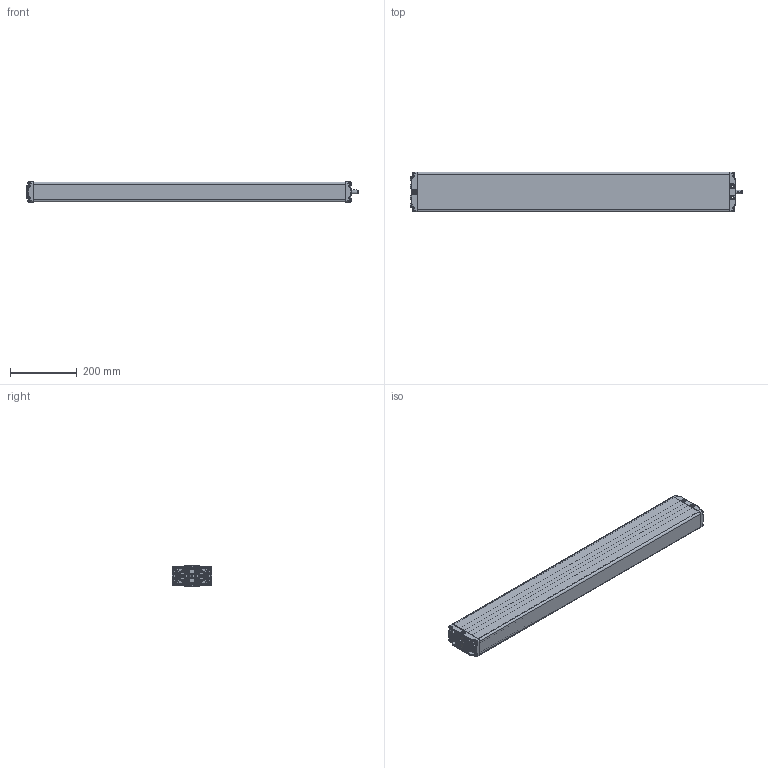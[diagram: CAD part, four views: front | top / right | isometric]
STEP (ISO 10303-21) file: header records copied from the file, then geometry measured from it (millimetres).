
FILE_DESCRIPTION(/* description */ ('Unknown'),/* implementation_level */ '2;1');
FILE_NAME(/* name */ '102.20327 Pumpe PB 6870 W',/* time_stamp */ '2016-09-06T17:52:27+02:00',/* author */ ('Unknown'),/* organization */ ('Unknown'),/* preprocessor_version */ 'ST-DEVELOPER v16.7',/* originating_system */ 'DEX',/* authorisation */ $);
FILE_SCHEMA (('AUTOMOTIVE_DESIGN {1 0 10303 214 3 1 1}'));
Products named in the file (14): 102.20327; 115.00039; 125.00045; 115.00008; 142.00021; 125.00021; 142.00013; 125.00149; 115.00140; 126.00006; 122.00040; 119.00040; 126.00005; 142.00057
Assembly tree (25 placements, depth 3):
  102.20327
    115.00039  x6
      125.00045
      115.00008
      142.00021
      125.00021
    142.00013  x8
    125.00149
    115.00140
      126.00006
      122.00040
    119.00040
    126.00005
    142.00057
Bounding box: 998.47 x 120 x 60.3 mm (x, y, z)
Volume: 1162954.7 mm3; surface area: 813011.1 mm2
Topology: 32 solids, 32 shells, 2594 faces, 6141 edges, 3544 vertices
Faces by surface type: bspline 704, plane 703, cylinder 576, cone 375, torus 176, sphere 60
Full cylindrical faces by diameter (mm): 3.5 x6, 4.1 x6, 4.2 x6, 5 x8, 6.917 x12, 8 x13, 9.8 x8, 10 x3, 10.4 x1, 14 x1, 14.4 x6, 17.3 x6, 17.9 x12, 18 x1, 19 x1
Entity records: 97550 total; most frequent: CARTESIAN_POINT 54065, ORIENTED_EDGE 8234, DIRECTION 6555, EDGE_CURVE 4117, AXIS2_PLACEMENT_3D 2635, VERTEX_POINT 2519, FACE_BOUND 1980, EDGE_LOOP 1979
